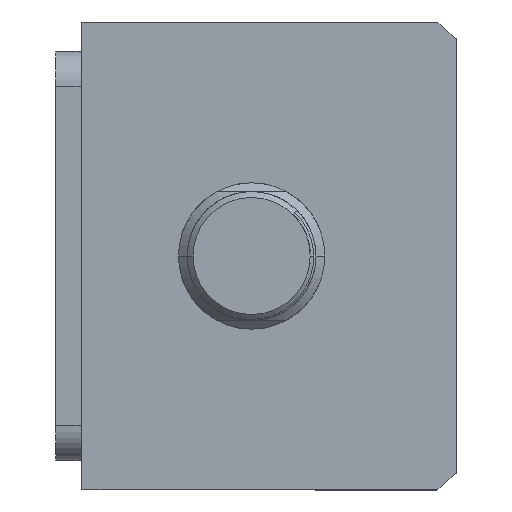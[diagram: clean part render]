
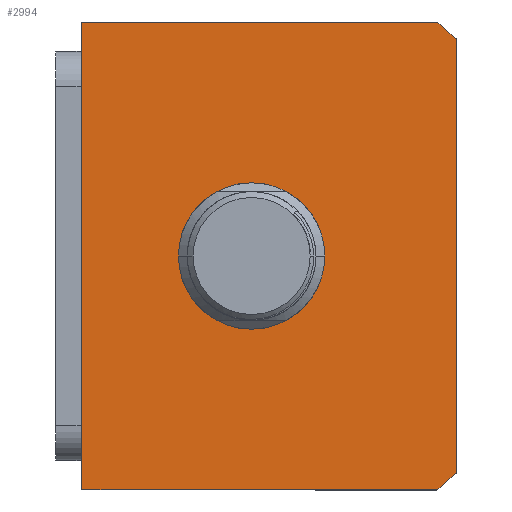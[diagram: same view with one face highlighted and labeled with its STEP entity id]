
A CAD part, front view. The second image highlights one B-rep face of the part: STEP entity #2994.
In plain terms, the highlighted planar face has unit normal (0, -1, 0) as drawn and (0, 0, -1) by its records, which use the part's own axes.
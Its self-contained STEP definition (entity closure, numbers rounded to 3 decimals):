
#270 = CARTESIAN_POINT ( 'NONE',  ( -40., 32., 0. ) ) ;
#287 = AXIS2_PLACEMENT_3D ( 'NONE', #16381, #10730, #16195 ) ;
#367 = EDGE_CURVE ( 'NONE', #1969, #7749, #604, .T. ) ;
#488 = DIRECTION ( 'NONE',  ( -1., 0., 0. ) ) ;
#604 = CIRCLE ( 'NONE', #287, 51. ) ;
#733 = ORIENTED_EDGE ( 'NONE', *, *, #11933, .F. ) ;
#991 = CIRCLE ( 'NONE', #7119, 12.5 ) ;
#993 = CIRCLE ( 'NONE', #8775, 12.5 ) ;
#1085 = DIRECTION ( 'NONE',  ( 1., 0., 0. ) ) ;
#1127 = AXIS2_PLACEMENT_3D ( 'NONE', #13363, #9299, #1085 ) ;
#1291 = EDGE_CURVE ( 'NONE', #8249, #6120, #15159, .T. ) ;
#1328 = EDGE_CURVE ( 'NONE', #9117, #14245, #993, .T. ) ;
#1730 = CARTESIAN_POINT ( 'NONE',  ( -40., 32., 0. ) ) ;
#1969 = VERTEX_POINT ( 'NONE', #12371 ) ;
#1984 = ORIENTED_EDGE ( 'NONE', *, *, #5785, .F. ) ;
#2994 = ADVANCED_FACE ( 'NONE', ( #16909, #13670 ), #6544, .F. ) ;
#3337 = VERTEX_POINT ( 'NONE', #270 ) ;
#4371 = VECTOR ( 'NONE', #488, 1000. ) ;
#5108 = CARTESIAN_POINT ( 'NONE',  ( 40., 32., 0. ) ) ;
#5506 = EDGE_CURVE ( 'NONE', #14245, #9117, #991, .T. ) ;
#5595 = ORIENTED_EDGE ( 'NONE', *, *, #13698, .F. ) ;
#5700 = CARTESIAN_POINT ( 'NONE',  ( -40., -28.639, 0. ) ) ;
#5785 = EDGE_CURVE ( 'NONE', #16822, #3337, #15304, .T. ) ;
#5994 = CARTESIAN_POINT ( 'NONE',  ( -12.5, 3., 0. ) ) ;
#6010 = AXIS2_PLACEMENT_3D ( 'NONE', #6742, #16328, #6988 ) ;
#6120 = VERTEX_POINT ( 'NONE', #8866 ) ;
#6321 = DIRECTION ( 'NONE',  ( 1., 0., 0. ) ) ;
#6544 = PLANE ( 'NONE',  #1127 ) ;
#6742 = CARTESIAN_POINT ( 'NONE',  ( 0., 3., 0. ) ) ;
#6755 = EDGE_LOOP ( 'NONE', ( #11379, #5595, #1984, #12112, #9705, #733 ) ) ;
#6988 = DIRECTION ( 'NONE',  ( 1., 0., 0. ) ) ;
#7119 = AXIS2_PLACEMENT_3D ( 'NONE', #16357, #8154, #17729 ) ;
#7203 = EDGE_LOOP ( 'NONE', ( #7204, #8765 ) ) ;
#7204 = ORIENTED_EDGE ( 'NONE', *, *, #5506, .T. ) ;
#7408 = EDGE_CURVE ( 'NONE', #7749, #16822, #11408, .T. ) ;
#7749 = VERTEX_POINT ( 'NONE', #10015 ) ;
#7767 = VECTOR ( 'NONE', #13303, 1000. ) ;
#8154 = DIRECTION ( 'NONE',  ( 0., 0., 1. ) ) ;
#8249 = VERTEX_POINT ( 'NONE', #5700 ) ;
#8485 = DIRECTION ( 'NONE',  ( 0., -1., 0. ) ) ;
#8765 = ORIENTED_EDGE ( 'NONE', *, *, #1328, .T. ) ;
#8775 = AXIS2_PLACEMENT_3D ( 'NONE', #16507, #9618, #12217 ) ;
#8805 = VECTOR ( 'NONE', #8485, 1000. ) ;
#8866 = CARTESIAN_POINT ( 'NONE',  ( -37.094, -32., 0. ) ) ;
#9025 = CARTESIAN_POINT ( 'NONE',  ( -40., -32., 0. ) ) ;
#9117 = VERTEX_POINT ( 'NONE', #5994 ) ;
#9140 = CARTESIAN_POINT ( 'NONE',  ( 40., 32., 0. ) ) ;
#9216 = LINE ( 'NONE', #16680, #8805 ) ;
#9299 = DIRECTION ( 'NONE',  ( 0., 0., 1. ) ) ;
#9618 = DIRECTION ( 'NONE',  ( 0., 0., 1. ) ) ;
#9705 = ORIENTED_EDGE ( 'NONE', *, *, #367, .F. ) ;
#10015 = CARTESIAN_POINT ( 'NONE',  ( 40., -28.639, 0. ) ) ;
#10730 = DIRECTION ( 'NONE',  ( 0., 0., 1. ) ) ;
#10768 = LINE ( 'NONE', #9025, #17637 ) ;
#11379 = ORIENTED_EDGE ( 'NONE', *, *, #1291, .F. ) ;
#11408 = LINE ( 'NONE', #5108, #7767 ) ;
#11933 = EDGE_CURVE ( 'NONE', #6120, #1969, #10768, .T. ) ;
#12112 = ORIENTED_EDGE ( 'NONE', *, *, #7408, .F. ) ;
#12217 = DIRECTION ( 'NONE',  ( 1., 0., 0. ) ) ;
#12371 = CARTESIAN_POINT ( 'NONE',  ( 37.094, -32., 0. ) ) ;
#13303 = DIRECTION ( 'NONE',  ( 0., 1., 0. ) ) ;
#13363 = CARTESIAN_POINT ( 'NONE',  ( 0., 0., 0. ) ) ;
#13670 = FACE_OUTER_BOUND ( 'NONE', #6755, .T. ) ;
#13698 = EDGE_CURVE ( 'NONE', #3337, #8249, #9216, .T. ) ;
#14245 = VERTEX_POINT ( 'NONE', #14528 ) ;
#14528 = CARTESIAN_POINT ( 'NONE',  ( 12.5, 3., 0. ) ) ;
#15159 = CIRCLE ( 'NONE', #6010, 51. ) ;
#15304 = LINE ( 'NONE', #1730, #4371 ) ;
#16195 = DIRECTION ( 'NONE',  ( 1., 0., 0. ) ) ;
#16328 = DIRECTION ( 'NONE',  ( 0., 0., 1. ) ) ;
#16357 = CARTESIAN_POINT ( 'NONE',  ( 0., 3., 0. ) ) ;
#16381 = CARTESIAN_POINT ( 'NONE',  ( 0., 3., 0. ) ) ;
#16507 = CARTESIAN_POINT ( 'NONE',  ( 0., 3., 0. ) ) ;
#16680 = CARTESIAN_POINT ( 'NONE',  ( -40., 32., 0. ) ) ;
#16822 = VERTEX_POINT ( 'NONE', #9140 ) ;
#16909 = FACE_BOUND ( 'NONE', #7203, .T. ) ;
#17637 = VECTOR ( 'NONE', #6321, 1000. ) ;
#17729 = DIRECTION ( 'NONE',  ( 1., 0., 0. ) ) ;
